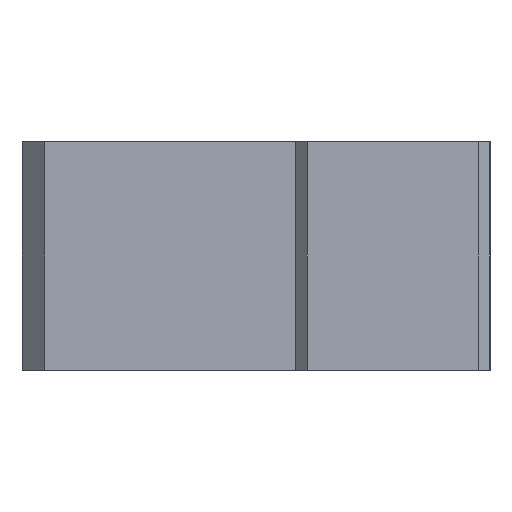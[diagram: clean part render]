
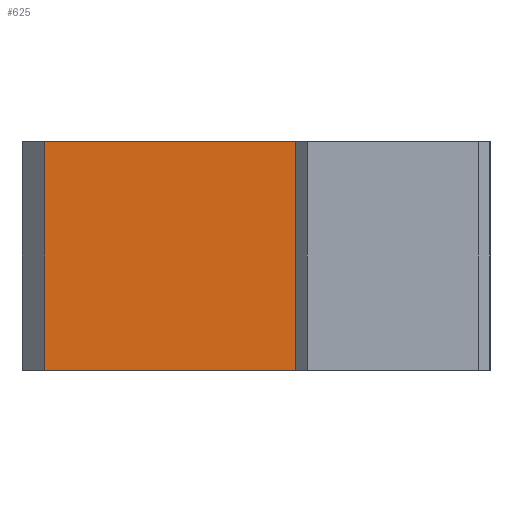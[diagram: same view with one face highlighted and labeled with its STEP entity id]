
A CAD part, left-side view. The second image highlights one B-rep face of the part: STEP entity #625.
In plain terms, the highlighted planar face has unit normal (-1, 0, 0).
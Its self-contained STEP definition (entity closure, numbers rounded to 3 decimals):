
#130=ORIENTED_EDGE('',*,*,#263,.F.);
#131=ORIENTED_EDGE('',*,*,#262,.F.);
#132=ORIENTED_EDGE('',*,*,#264,.T.);
#133=ORIENTED_EDGE('',*,*,#265,.T.);
#262=EDGE_CURVE('',#323,#322,#389,.T.);
#263=EDGE_CURVE('',#322,#324,#390,.T.);
#264=EDGE_CURVE('',#323,#325,#391,.T.);
#265=EDGE_CURVE('',#325,#324,#392,.T.);
#322=VERTEX_POINT('',#1029);
#323=VERTEX_POINT('',#1031);
#324=VERTEX_POINT('',#1035);
#325=VERTEX_POINT('',#1037);
#389=LINE('',#1032,#431);
#390=LINE('',#1034,#432);
#391=LINE('',#1036,#433);
#392=LINE('',#1038,#434);
#431=VECTOR('',#825,1000.);
#432=VECTOR('',#828,1000.);
#433=VECTOR('',#829,1000.);
#434=VECTOR('',#830,1000.);
#452=EDGE_LOOP('',(#130,#131,#132,#133));
#528=FACE_BOUND('',#452,.T.);
#601=PLANE('',#697);
#625=ADVANCED_FACE('',(#528),#601,.T.);
#697=AXIS2_PLACEMENT_3D('',#1033,#826,#827);
#825=DIRECTION('',(0.,0.,1.));
#826=DIRECTION('',(-1.,0.,0.));
#827=DIRECTION('',(0.,0.,1.));
#828=DIRECTION('',(0.,-1.,0.));
#829=DIRECTION('',(0.,-1.,0.));
#830=DIRECTION('',(0.,0.,1.));
#1029=CARTESIAN_POINT('',(-20.5,17.,0.));
#1031=CARTESIAN_POINT('',(-20.5,17.,-20.));
#1032=CARTESIAN_POINT('',(-20.5,17.,-20.));
#1033=CARTESIAN_POINT('',(-20.5,17.,-20.));
#1034=CARTESIAN_POINT('',(-20.5,17.,0.));
#1035=CARTESIAN_POINT('',(-20.5,-5.,0.));
#1036=CARTESIAN_POINT('',(-20.5,17.,-20.));
#1037=CARTESIAN_POINT('',(-20.5,-5.,-20.));
#1038=CARTESIAN_POINT('',(-20.5,-5.,-20.));
